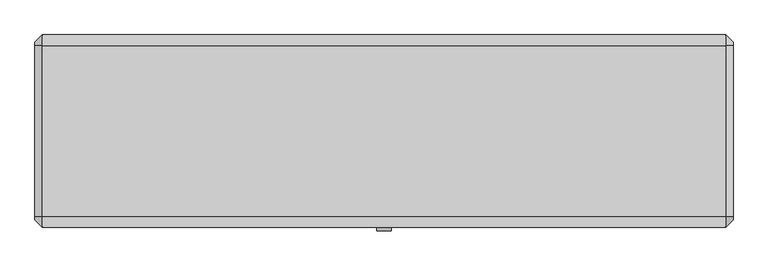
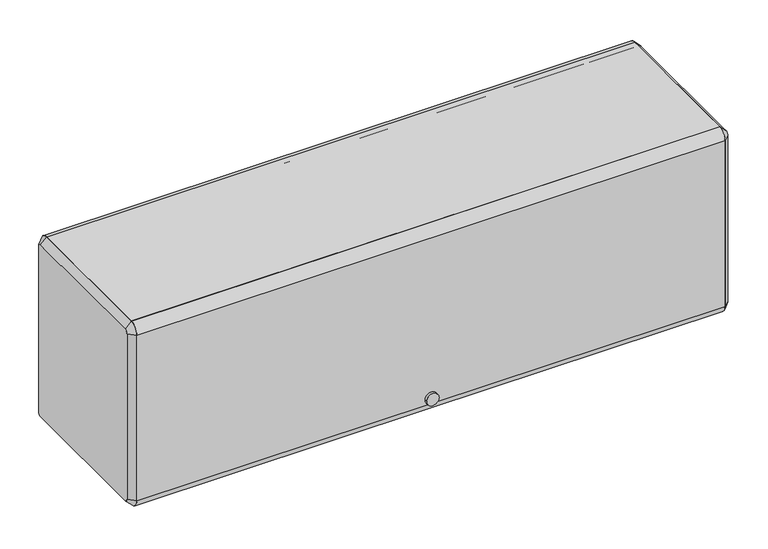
"""IFC4 building model written with IfcOpenShell, lengths in millimetres: furniture geometry."""

from ifc_helpers import new_model, si_unit, point, frame, frame_2d, origin, place, context, project, spatial, polyline, circle_curve, trimmed, segment, composite_curve, outline, extrude, source, transform, mapped, element, save
from ifc_brep_helpers import plane_surface, revolved_surface, advanced_brep


def furniture_87147b9d(model_context):
    return source(origin(), model_context, "Body", "SolidModel", [
        extrude(outline(composite_curve([segment(polyline([(-136.525, 1299.84246), (-136.525, 1312.54246), (161.925, 1312.54246)]), True, "CONTINUOUS"), segment(trimmed(circle_curve(frame_2d((161.925, 1293.49246)), 19.05), [point((161.925, 1312.54246))], [point((180.975, 1293.49246))], False, "CARTESIAN"), True, "CONTINUOUS"), segment(polyline([(180.975, 1293.49246), (168.275, 1293.49246)]), True, "CONTINUOUS"), segment(trimmed(circle_curve(frame_2d((161.925, 1293.49246)), 6.35), [point((168.275, 1293.49246))], [point((161.925, 1299.84246))], True, "CARTESIAN"), True, "CONTINUOUS"), segment(polyline([(161.925, 1299.84246), (-136.525, 1299.84246)]), True, "CONTINUOUS")], self_intersect=False)), frame((-596.9, 0.0, 0.0), z_axis=(1.0, 0.0, 0.0), x_axis=(0.0, 1.0, 0.0)), (0.0, 0.0, 1.0), 1193.8),
        extrude(outline(composite_curve([segment(trimmed(circle_curve(frame_2d((-136.525, 1293.49246)), 19.05), [point((-155.575, 1293.49246))], [point((-136.525, 1312.54246))], False, "CARTESIAN"), True, "CONTINUOUS"), segment(polyline([(-136.525, 1312.54246), (-136.525, 1299.84246)]), True, "CONTINUOUS"), segment(trimmed(circle_curve(frame_2d((-136.525, 1293.49246)), 6.35), [point((-136.525, 1299.84246))], [point((-142.875, 1293.49246))], True, "CARTESIAN"), True, "CONTINUOUS"), segment(polyline([(-142.875, 1293.49246), (-142.875, 937.89246)]), True, "CONTINUOUS"), segment(trimmed(circle_curve(frame_2d((-136.525, 937.89246)), 6.35), [point((-142.875, 937.89246))], [point((-136.525, 931.54246))], True, "CARTESIAN"), True, "CONTINUOUS"), segment(polyline([(-136.525, 931.54246), (-136.525, 918.84246)]), True, "CONTINUOUS"), segment(trimmed(circle_curve(frame_2d((-136.525, 937.89246)), 19.05), [point((-136.525, 918.84246))], [point((-155.575, 937.89246))], False, "CARTESIAN"), True, "CONTINUOUS"), segment(polyline([(-155.575, 937.89246), (-155.575, 1293.49246)]), True, "CONTINUOUS")], self_intersect=False)), frame((-596.9, 0.0, 0.0), z_axis=(1.0, 0.0, 0.0), x_axis=(0.0, 1.0, 0.0)), (0.0, 0.0, 1.0), 1193.8),
        extrude(outline(composite_curve([segment(trimmed(circle_curve(frame_2d((950.5543506, 0.0201199)), 12.7253951), [point((950.5543506, 12.745515))], [point((950.5543506, -12.7052752))], False, "CARTESIAN"), True, "CONTINUOUS"), segment(trimmed(circle_curve(frame_2d((950.5543506, 0.0201199)), 12.7253951), [point((950.5543506, -12.7052752))], [point((950.5543506, 12.745515))], False, "CARTESIAN"), True, "CONTINUOUS")], self_intersect=False)), frame((0.0, -161.925, 0.0), z_axis=(0.0, 1.0, 0.0), x_axis=(0.0, 0.0, 1.0)), (0.0, 0.0, 1.0), 6.35),
        extrude(outline(polyline([(-136.525, 956.94246), (161.925, 956.94246), (161.925, 995.04246), (174.625, 995.04246), (174.625, 991.86746), (165.1, 991.86746), (165.1, 953.76746), (-133.35, 953.76746), (-133.35, 934.71746), (-136.525, 934.71746), (-136.525, 956.94246)])), frame((-596.9, 0.0, 0.0), z_axis=(1.0, 0.0, 0.0), x_axis=(0.0, 1.0, 0.0)), (0.0, 0.0, 1.0), 1193.8),
        advanced_brep(
        [(609.6, 161.925, 1299.84246), (609.6, -136.525, 1299.84246), (609.6, -142.875, 1293.49246), (609.6, -142.875, 937.89246), (609.6, -136.525, 931.54246), (609.6, 161.925, 931.54246), (609.6, 168.275, 937.89246), (609.6, 168.275, 1293.49246), (596.9, 161.925, 1312.54246), (596.9, 180.975, 1293.49246), (596.9, 180.975, 937.89246), (596.9, 161.925, 918.84246), (596.9, -136.525, 918.84246), (596.9, -155.575, 937.89246), (596.9, -155.575, 1293.49246), (596.9, -136.525, 1312.54246)],
        [
            (0, 1),
            (1, 2, circle_curve(frame((609.6, -136.525, 1293.49246), z_axis=(1.0, 6.490807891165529e-12, -6.586731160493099e-12), x_axis=(6.586694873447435e-12, 0.0, 1.0)), 6.35)),
            (2, 3),
            (3, 4, circle_curve(frame((609.6, -136.525, 937.89246), z_axis=(1.0, 3.3733016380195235e-12, 3.3679725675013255e-12), x_axis=(3.373343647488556e-12, -1.0, 0.0)), 6.35)),
            (4, 5),
            (5, 6, circle_curve(frame((609.6, 161.925, 937.89246), z_axis=(1.0, 3.3786307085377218e-12, -3.3892888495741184e-12), x_axis=(-3.3893585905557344e-12, 0.0, -1.0)), 6.35)),
            (6, 7),
            (7, 0, circle_curve(frame((609.6, 161.925, 1293.49246), z_axis=(1.0, 6.482814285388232e-12, 6.39488462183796e-12), x_axis=(-6.48275475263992e-12, 1.0, 0.0)), 6.35)),
            (8, 9, circle_curve(frame((596.9, 161.925, 1293.49246), z_axis=(-1.0, -6.482814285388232e-12, -6.39488462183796e-12), x_axis=(-6.48275475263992e-12, 1.0, 0.0)), 19.05)),
            (9, 10),
            (10, 11, circle_curve(frame((596.9, 161.925, 937.89246), z_axis=(-1.0, -3.3786307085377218e-12, 3.3892888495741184e-12), x_axis=(-3.3893585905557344e-12, 0.0, -1.0)), 19.05)),
            (11, 12),
            (12, 13, circle_curve(frame((596.9, -136.525, 937.89246), z_axis=(-1.0, -3.3733016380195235e-12, -3.3679725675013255e-12), x_axis=(3.373343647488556e-12, -1.0, 0.0)), 19.05)),
            (13, 14),
            (14, 15, circle_curve(frame((596.9, -136.525, 1293.49246), z_axis=(-1.0, -6.490807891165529e-12, 6.586731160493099e-12), x_axis=(6.586694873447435e-12, 0.0, 1.0)), 19.05)),
            (15, 8),
            (15, 1),
            (0, 8),
            (14, 2),
            (13, 3),
            (12, 4),
            (11, 5),
            (10, 6),
            (9, 7),
        ],
        [
            plane_surface(frame((609.6, 12.7, 1115.69246), z_axis=(1.0, 0.0, 0.0), x_axis=(0.0, -1.0, 0.0))),
            plane_surface(frame((596.9, 12.7, 1115.69246), z_axis=(-1.0, 0.0, 0.0), x_axis=(0.0, -1.0, 0.0))),
            plane_surface(frame((596.9, 12.7, 1312.54246), z_axis=(0.7071067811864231, 0.0, 0.7071067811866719), x_axis=(0.0, -1.0, 0.0))),
            revolved_surface(polyline([(609.6000000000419, -136.525, 1299.842459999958), (596.9, -136.525, 1312.54246)]), (615.95, -136.525, 1293.49246), (-1.0, -6.490807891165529e-12, 6.586731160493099e-12)),
            plane_surface(frame((596.9, -155.575, 1115.69246), z_axis=(0.7071067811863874, -0.7071067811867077, 0.0), x_axis=(0.0, 0.0, -1.0))),
            revolved_surface(polyline([(609.6000000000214, -142.87499999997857, 937.89246), (596.9, -155.575, 937.89246)]), (615.95, -136.525, 937.89246), (-1.0, -3.3733016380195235e-12, -3.3679725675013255e-12)),
            plane_surface(frame((596.9, 12.7, 918.84246), z_axis=(0.7071067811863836, 0.0, -0.7071067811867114), x_axis=(0.0, 1.0, 0.0))),
            revolved_surface(polyline([(609.6, 161.925, 931.54246), (596.8999999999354, 161.925, 918.8424599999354)]), (615.95, 161.925, 937.89246), (-1.0, -3.3786307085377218e-12, 3.3892888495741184e-12)),
            plane_surface(frame((596.9, 180.975, 1115.69246), z_axis=(0.7071067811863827, 0.7071067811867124, 0.0), x_axis=(0.0, 0.0, 1.0))),
            revolved_surface(polyline([(609.6, 168.275, 1293.49246), (596.8999999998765, 180.9750000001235, 1293.49246)]), (615.95, 161.925, 1293.49246), (-1.0, -6.482814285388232e-12, -6.39488462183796e-12)),
        ],
        [
            (0, [[1, 2, 3, 4, 5, 6, 7, 8]]),
            (1, [[9, 10, 11, 12, 13, 14, 15, 16]]),
            (2, [[-16, 17, -1, 18]]),
            (3, [[-15, 19, -2, -17]]),
            (4, [[-14, 20, -3, -19]]),
            (5, [[-13, 21, -4, -20]]),
            (6, [[-12, 22, -5, -21]]),
            (7, [[-11, 23, -6, -22]]),
            (8, [[-10, 24, -7, -23]]),
            (9, [[-9, -18, -8, -24]]),
        ],
    ),
        advanced_brep(
        [(-609.6, -136.525, 1299.84246), (-609.6, 161.925, 1299.84246), (-609.6, 168.275, 1293.49246), (-609.6, 168.275, 937.89246), (-609.6, 161.925, 931.54246), (-609.6, -136.525, 931.54246), (-609.6, -142.875, 937.89246), (-609.6, -142.875, 1293.49246), (-596.9, -136.525, 1312.54246), (-596.9, -155.575, 1293.49246), (-596.9, -155.575, 937.89246), (-596.9, -136.525, 918.84246), (-596.9, 161.925, 918.84246), (-596.9, 180.975, 937.89246), (-596.9, 180.975, 1293.49246), (-596.9, 161.925, 1312.54246)],
        [
            (0, 1),
            (1, 2, circle_curve(frame((-609.6, 161.925, 1293.49246), z_axis=(-1.0, 3.365308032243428e-12, 3.453237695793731e-12), x_axis=(3.4532613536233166e-12, 0.0, 1.0)), 6.35)),
            (2, 3),
            (3, 4, circle_curve(frame((-609.6, 161.925, 937.89246), z_axis=(-1.0, 0.0, 0.0), x_axis=(0.0, 1.0, 0.0)), 6.35)),
            (4, 5),
            (5, 6, circle_curve(frame((-609.6, -136.525, 937.89246), z_axis=(-1.0, 0.0, 0.0), x_axis=(0.0, 0.0, -1.0)), 6.35)),
            (6, 7),
            (7, 0, circle_curve(frame((-609.6, -136.525, 1293.49246), z_axis=(-1.0, 3.3839597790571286e-12, -3.3040237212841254e-12), x_axis=(-3.38402027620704e-12, -1.0, 0.0)), 6.35)),
            (8, 9, circle_curve(frame((-596.9, -136.525, 1293.49246), z_axis=(1.0, -3.3839597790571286e-12, 3.3040237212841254e-12), x_axis=(-3.38402027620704e-12, -1.0, 0.0)), 19.05)),
            (9, 10),
            (10, 11, circle_curve(frame((-596.9, -136.525, 937.89246), z_axis=(1.0, 0.0, 0.0), x_axis=(0.0, 0.0, -1.0)), 19.05)),
            (11, 12),
            (12, 13, circle_curve(frame((-596.9, 161.925, 937.89246), z_axis=(1.0, 0.0, 0.0), x_axis=(0.0, 1.0, 0.0)), 19.05)),
            (13, 14),
            (14, 15, circle_curve(frame((-596.9, 161.925, 1293.49246), z_axis=(1.0, -3.365308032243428e-12, -3.453237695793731e-12), x_axis=(3.4532613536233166e-12, 0.0, 1.0)), 19.05)),
            (15, 8),
            (15, 1),
            (0, 8),
            (14, 2),
            (13, 3),
            (12, 4),
            (11, 5),
            (10, 6),
            (9, 7),
        ],
        [
            plane_surface(frame((-609.6, 12.7, 1115.69246), z_axis=(-1.0, 0.0, 0.0), x_axis=(0.0, -1.0, 0.0))),
            plane_surface(frame((-596.9, 12.7, 1115.69246), z_axis=(1.0, 0.0, 0.0), x_axis=(0.0, -1.0, 0.0))),
            plane_surface(frame((-596.9, 12.7, 1312.54246), z_axis=(-0.7071067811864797, 0.0, 0.7071067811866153), x_axis=(0.0, 1.0, 0.0))),
            revolved_surface(polyline([(-609.6, 161.925, 1299.8424599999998), (-596.8999999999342, 161.925, 1312.5424600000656)]), (-615.95, 161.925, 1293.49246), (1.0, -3.365308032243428e-12, -3.453237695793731e-12)),
            plane_surface(frame((-596.9, 180.975, 1115.69246), z_axis=(-0.7071067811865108, 0.7071067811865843, 0.0), x_axis=(0.0, 0.0, -1.0))),
            revolved_surface(polyline([(-609.6, 168.275, 937.89246), (-596.9, 180.975, 937.89246)]), (-615.95, 161.925, 937.89246), (1.0, 0.0, 0.0)),
            plane_surface(frame((-596.9, 12.7, 918.84246), z_axis=(-0.7071067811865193, 0.0, -0.7071067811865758), x_axis=(0.0, -1.0, 0.0))),
            revolved_surface(polyline([(-609.6, -136.525, 931.54246), (-596.9, -136.525, 918.84246)]), (-615.95, -136.525, 937.89246), (1.0, 0.0, 0.0)),
            plane_surface(frame((-596.9, -155.575, 1115.69246), z_axis=(-0.7071067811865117, -0.7071067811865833, 0.0), x_axis=(0.0, 0.0, 1.0))),
            revolved_surface(polyline([(-609.6000000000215, -142.8749999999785, 1293.49246), (-596.9, -155.575, 1293.49246)]), (-615.95, -136.525, 1293.49246), (1.0, -3.3839597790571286e-12, 3.3040237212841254e-12)),
        ],
        [
            (0, [[1, 2, 3, 4, 5, 6, 7, 8]]),
            (1, [[9, 10, 11, 12, 13, 14, 15, 16]]),
            (2, [[-16, 17, -1, 18]]),
            (3, [[-15, 19, -2, -17]]),
            (4, [[-14, 20, -3, -19]]),
            (5, [[-13, 21, -4, -20]]),
            (6, [[-12, 22, -5, -21]]),
            (7, [[-11, 23, -6, -22]]),
            (8, [[-10, 24, -7, -23]]),
            (9, [[-9, -18, -8, -24]]),
        ],
    ),
    ])


if __name__ == "__main__":
    model = new_model("IFC4")
    model_context = context("Model", 3, world=origin())
    ifc_project = project(units=[si_unit("LENGTHUNIT", "METRE", prefix="MILLI")], contexts=[model_context])
    site = spatial("IfcSite", under=ifc_project)
    building = spatial("IfcBuilding", under=site)
    placement = place(None, origin())
    furniture_shape = furniture_87147b9d(model_context)
    element("IfcFurniture", 1, ObjectType="HermanMiller_ActionOffice_A3352_B-StyleFlipperDoorUnit : 15 1/2\"H x 13\"D x 48\"W", at=placement, inside=building, context=model_context, shape_type="MappedRepresentation", body=[
        mapped(furniture_shape, transform((0.0, 0.0, 0.0), x_axis=(1.0, 0.0, 0.0), y_axis=(0.0, 1.0, 0.0), z_axis=(0.0, 0.0, 1.0))),
    ])
    save(model, "model.ifc")
